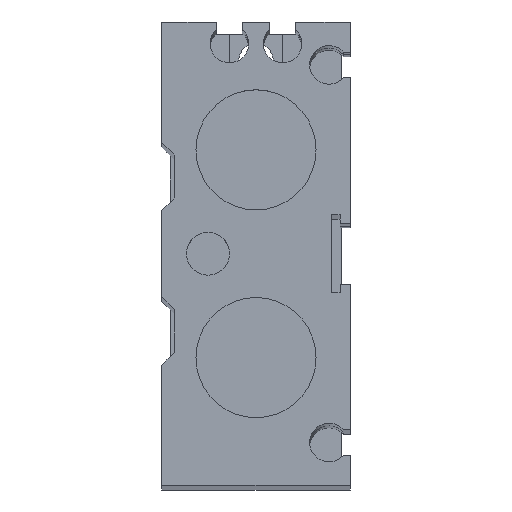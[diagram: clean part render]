
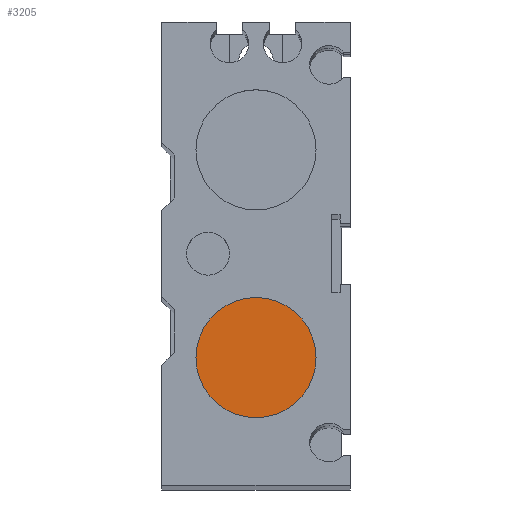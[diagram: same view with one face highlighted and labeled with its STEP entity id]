
A CAD part, top view. The second image highlights one B-rep face of the part: STEP entity #3205.
In plain terms, the highlighted planar face has unit normal (0, 0, 1).
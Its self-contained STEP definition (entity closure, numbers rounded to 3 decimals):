
#3174=CARTESIAN_POINT('',(7.,-12.1,569.));
#3175=VERTEX_POINT('',#3174);
#3176=CARTESIAN_POINT('',(0.,-12.1,569.));
#3177=DIRECTION('',(0.0,0.0,1.0));
#3178=DIRECTION('',(-1.0,0.0,0.0));
#3179=AXIS2_PLACEMENT_3D('',#3176,#3177,#3178);
#3180=CIRCLE('',#3179,7.);
#3181=EDGE_CURVE('',#3175,#3175,#3180,.T.);
#3197=CARTESIAN_POINT('',(0.,-12.1,569.));
#3198=DIRECTION('',(0.0,0.0,-1.0));
#3199=DIRECTION('',(-1.0,0.0,0.0));
#3200=AXIS2_PLACEMENT_3D('',#3197,#3198,#3199);
#3201=PLANE('',#3200);
#3202=ORIENTED_EDGE('',*,*,#3181,.T.);
#3203=EDGE_LOOP('',(#3202));
#3204=FACE_OUTER_BOUND('',#3203,.T.);
#3205=ADVANCED_FACE('',(#3204),#3201,.F.);
